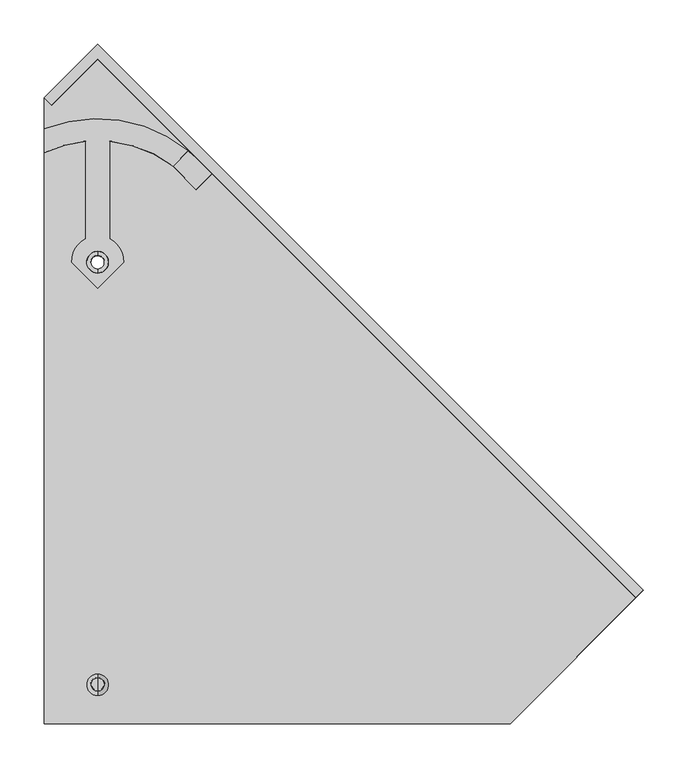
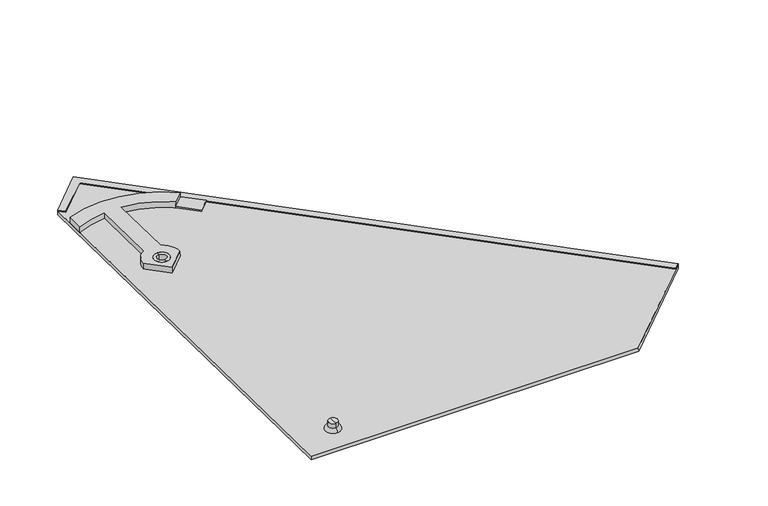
"""IFC4 building model written with IfcOpenShell, lengths in millimetres: proxy geometry, Roofing_Panels_SunStyle_Tuile_Coin-Bas-Grand-Gauche : Coin Bas Grand Gauche - Noir."""

from ifc_helpers import new_model, si_unit, point, frame, frame_2d, origin, place, context, project, spatial, polyline, circle_curve, ellipse_curve, trimmed, segment, composite_curve, outline, extrude, source, transform, mapped, element, save
from ifc_brep_helpers import plane_surface, cylinder_surface, revolved_surface, advanced_brep


def generic_models_bb089a68(model_context):
    return source(origin(), model_context, "Body", "SolidModel", [
        advanced_brep(
        [(0.0, -113.1716253, 18.1989674), (0.0, -99.8385448, 17.9756715), (0.0, -100.2068538, -4.0161979), (0.0, -113.5399344, -3.792902), (0.0, -118.6708541, 18.2910658), (0.0, -94.3393159, 17.8835731), (0.0, -113.7218578, 23.2048726), (0.0, -99.1209949, 22.9603445), (0.0, -106.2873979, 31.0854967), (0.0, -98.9869664, 30.9632326), (0.0, -113.5878294, 31.2077608), (0.0, -106.8733941, -3.9045499)],
        [
            (0, 1, circle_curve(frame((0.0, -106.505085, 18.0873194), z_axis=(0.0, -0.016745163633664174, -0.9998597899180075), x_axis=(0.0, 0.9998597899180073, -0.01674516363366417)), 6.6674751)),
            (1, 2),
            (2, 3, circle_curve(frame((0.0, -106.8733941, -3.9045499), z_axis=(0.0, 0.016745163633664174, 0.9998597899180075), x_axis=(0.0, 0.9998597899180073, -0.01674516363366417)), 6.6674751)),
            (3, 0),
            (1, 0, circle_curve(frame((0.0, -106.505085, 18.0873194), z_axis=(0.0, -0.016745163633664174, -0.9998597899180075), x_axis=(0.0, 0.9998597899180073, -0.01674516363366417)), 6.6674751)),
            (3, 2, circle_curve(frame((0.0, -106.8733941, -3.9045499), z_axis=(0.0, 0.016745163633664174, 0.9998597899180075), x_axis=(0.0, 0.9998597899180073, -0.01674516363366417)), 6.6674751)),
            (4, 5, circle_curve(frame((0.0, -106.505085, 18.0873194), z_axis=(0.0, -0.016745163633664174, -0.9998597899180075), x_axis=(0.0, 0.9998597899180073, -0.01674516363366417)), 12.1674751)),
            (5, 1),
            (0, 4),
            (5, 4, circle_curve(frame((0.0, -106.505085, 18.0873194), z_axis=(0.0, -0.016745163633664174, -0.9998597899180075), x_axis=(0.0, 0.9998597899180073, -0.01674516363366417)), 12.1674751)),
            (6, 7, circle_curve(frame((0.0, -106.4214264, 23.0826085), z_axis=(0.0, -0.016745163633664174, -0.9998597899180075), x_axis=(0.0, 0.9998597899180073, -0.01674516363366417)), 7.3014552)),
            (7, 5, circle_curve(frame((0.0, -99.4251928, 17.8835731), z_axis=(-1.0, 0.0, 0.0), x_axis=(0.0, 1.0, 0.0)), 5.0858769)),
            (4, 6, circle_curve(frame((0.0, -113.5878294, 18.120762), z_axis=(-1.0, 0.0, 0.0), x_axis=(0.0, -0.9994391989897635, 0.03348563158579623)), 5.0858769)),
            (7, 6, circle_curve(frame((0.0, -106.4214264, 23.0826085), z_axis=(0.0, -0.016745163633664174, -0.9998597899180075), x_axis=(0.0, 0.9998597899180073, -0.01674516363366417)), 7.3014552)),
            (8, 9),
            (9, 10, circle_curve(frame((0.0, -106.2873979, 31.0854967), z_axis=(0.0, 0.016745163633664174, 0.9998597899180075), x_axis=(0.0, 0.9998597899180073, -0.01674516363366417)), 7.3014552)),
            (10, 8),
            (10, 9, circle_curve(frame((0.0, -106.2873979, 31.0854967), z_axis=(0.0, 0.016745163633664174, 0.9998597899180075), x_axis=(0.0, 0.9998597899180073, -0.01674516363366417)), 7.3014552)),
            (2, 11),
            (11, 3),
            (9, 7),
            (6, 10),
        ],
        [
            cylinder_surface(frame((0.0, -106.1530399, 39.1080636), z_axis=(0.0, 0.01674516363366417, 0.9998597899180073), x_axis=(0.0, 0.9998597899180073, -0.01674516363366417)), 6.6674751),
            plane_surface(frame((0.0, -106.505085, 18.0873194), z_axis=(0.0, -0.016745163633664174, -0.9998597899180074), x_axis=(0.0, 0.9998597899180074, -0.016745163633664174))),
            revolved_surface(trimmed(ellipse_curve(frame((0.0, -99.4251928, 17.8835731), z_axis=(1.0, 0.0, 0.0), x_axis=(0.0, 1.0, 0.0)), 5.0858769, 5.0858769), [point((0.0, -94.3393159, 17.8835731))], [point((0.0, -99.1209949, 22.9603445))], True, "CARTESIAN"), (0.0, -106.1530399, 39.1080636), (0.0, 0.01674516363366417, 0.9998597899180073)),
            plane_surface(frame((0.0, -106.2873979, 31.0854967), z_axis=(0.0, 0.016745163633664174, 0.9998597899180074), x_axis=(0.0, 0.9998597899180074, -0.016745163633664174))),
            plane_surface(frame((0.0, -106.8733941, -3.9045499), z_axis=(0.0, -0.016745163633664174, -0.9998597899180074), x_axis=(0.0, 0.9998597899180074, -0.016745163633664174))),
            cylinder_surface(frame((0.0, -106.1530399, 39.1080636), z_axis=(0.0, 0.01674516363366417, 0.9998597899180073), x_axis=(0.0, 0.9998597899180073, -0.01674516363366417)), 7.3014552),
        ],
        [
            (0, [[1, 2, 3, 4]]),
            (0, [[5, -4, 6, -2]]),
            (1, [[7, 8, -1, 9]]),
            (1, [[10, -9, -5, -8]]),
            (2, [[11, 12, -7, 13]]),
            (2, [[14, -13, -10, -12]]),
            (3, [[15, 16, 17]]),
            (3, [[-17, 18, -15]]),
            (4, [[-3, 19, 20]]),
            (4, [[-6, -20, -19]]),
            (5, [[-16, 21, -11, 22]]),
            (5, [[-18, -22, -14, -21]]),
        ],
    ),
        advanced_brep(
        [(0.0, 361.8961325, 20.2441668), (0.0, 377.2289335, 19.9873805), (0.0, 381.7283021, 19.9120273), (0.0, 357.3967639, 20.31952), (0.0, 361.6282103, 4.2464102), (0.0, 376.9610105, 3.9896239), (0.0, 357.1288413, 4.3217634), (0.0, 381.4603795, 3.9142707)],
        [
            (0, 1, circle_curve(frame((0.0, 369.562533, 20.1157737), z_axis=(0.0, -0.016745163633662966, -0.9998597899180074), x_axis=(0.0, 0.9998597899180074, -0.016745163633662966)), 7.6674755)),
            (1, 2),
            (2, 3, circle_curve(frame((0.0, 369.562533, 20.1157737), z_axis=(0.0, 0.016745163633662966, 0.9998597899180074), x_axis=(0.0, 0.9998597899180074, -0.016745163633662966)), 12.1674751)),
            (3, 0),
            (1, 0, circle_curve(frame((0.0, 369.562533, 20.1157737), z_axis=(0.0, -0.016745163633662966, -0.9998597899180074), x_axis=(0.0, 0.9998597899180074, -0.016745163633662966)), 7.6674755)),
            (3, 2, circle_curve(frame((0.0, 369.562533, 20.1157737), z_axis=(0.0, 0.016745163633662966, 0.9998597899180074), x_axis=(0.0, 0.9998597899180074, -0.016745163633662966)), 12.1674751)),
            (4, 5, circle_curve(frame((0.0, 369.2946104, 4.118017), z_axis=(0.0, -0.016745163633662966, -0.9998597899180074), x_axis=(0.0, 0.9998597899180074, -0.016745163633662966)), 7.6674751)),
            (5, 1),
            (0, 4),
            (5, 4, circle_curve(frame((0.0, 369.2946104, 4.118017), z_axis=(0.0, -0.016745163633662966, -0.9998597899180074), x_axis=(0.0, 0.9998597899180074, -0.016745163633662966)), 7.6674751)),
            (6, 7, circle_curve(frame((0.0, 369.2946104, 4.118017), z_axis=(0.0, -0.016745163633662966, -0.9998597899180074), x_axis=(0.0, 0.9998597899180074, -0.016745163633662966)), 12.1674751)),
            (7, 5),
            (4, 6),
            (7, 6, circle_curve(frame((0.0, 369.2946104, 4.118017), z_axis=(0.0, -0.016745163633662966, -0.9998597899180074), x_axis=(0.0, 0.9998597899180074, -0.016745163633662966)), 12.1674751)),
            (2, 7),
            (6, 3),
        ],
        [
            plane_surface(frame((0.0, 369.562533, 20.1157737), z_axis=(0.0, 0.016745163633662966, 0.9998597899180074), x_axis=(0.0, 0.9998597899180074, -0.016745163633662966))),
            revolved_surface(polyline([(0.0, 377.2289330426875, 19.987380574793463), (0.0, 376.96101042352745, 3.989623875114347)]), (0.0, 369.562533, 20.1157737), (0.0, 0.016745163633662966, 0.9998597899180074)),
            plane_surface(frame((0.0, 369.2946104, 4.118017), z_axis=(0.0, -0.016745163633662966, -0.9998597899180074), x_axis=(0.0, 0.9998597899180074, -0.016745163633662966))),
            cylinder_surface(frame((0.0, 369.562533, 20.1157737), z_axis=(0.0, 0.016745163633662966, 0.9998597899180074), x_axis=(0.0, 0.9998597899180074, -0.016745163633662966)), 12.1674751),
        ],
        [
            (0, [[1, 2, 3, 4]]),
            (0, [[5, -4, 6, -2]]),
            (1, [[7, 8, -1, 9]]),
            (1, [[10, -9, -5, -8]]),
            (2, [[11, 12, -7, 13]]),
            (2, [[14, -13, -10, -12]]),
            (3, [[-3, 15, -11, 16]]),
            (3, [[-6, -16, -14, -15]]),
        ],
    ),
        extrude(outline(polyline([(0.0, -11.9999999), (0.0, 0.0), (858.0626589, 0.0), (858.0728943, 72.9957231), (870.0728943, 72.9940405), (870.0609764, -12.0), (0.0, -11.9999999)])), frame((606.7847845, -8.5982257, 16.4476231), z_axis=(0.0, 0.016745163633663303, 0.9998597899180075), x_axis=(-0.7071563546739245, 0.7069580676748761, -0.011839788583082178)), (0.0, 0.0, 1.0), 1.5),
        extrude(outline(polyline([(995.0941908, 0.0), (995.2161906, -870.0609679), (783.0180502, -870.0609679), (411.5375299, -498.6325329), (910.1001495, 0.0), (995.0941908, 0.0)]), holes=[composite_curve([segment(trimmed(circle_curve(frame_2d((821.5432581, -173.5748135)), 12.0), [point((813.0573819, -165.0901271))], [point((830.0291344, -182.0595))], True, "CARTESIAN"), True, "CONTINUOUS"), segment(trimmed(circle_curve(frame_2d((821.5432581, -173.5748135)), 12.0), [point((830.0291344, -182.0595))], [point((813.0573819, -165.0901271))], True, "CARTESIAN"), True, "CONTINUOUS")], self_intersect=False), composite_curve([segment(trimmed(circle_curve(frame_2d((484.9840289, -510.1812384)), 8.0), [point((479.3267781, -504.5247807))], [point((490.6412798, -515.837696))], True, "CARTESIAN"), True, "CONTINUOUS"), segment(trimmed(circle_curve(frame_2d((484.9840289, -510.1812384)), 8.0), [point((490.6412798, -515.837696))], [point((479.3267781, -504.5247807))], True, "CARTESIAN"), True, "CONTINUOUS")], self_intersect=False)]), frame((-703.686858, -88.6072499, 11.7867338), z_axis=(0.0, 0.01674516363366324, 0.9998597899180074), x_axis=(0.7071563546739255, 0.7069580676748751, -0.011839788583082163)), (0.0, 0.0, 1.0), 6.0),
        advanced_brep(
        [(-60.1037539, 519.6893101, 17.6015237), (-60.1037539, 492.9630774, 18.0491216), (-13.3, 505.8109871, 17.8339511), (-13.3, 395.9341043, 19.6741155), (-29.3894281, 369.7299846, 20.1129693), (0.0, 340.3446773, 20.6051), (29.3894281, 369.7299846, 20.1129693), (13.3, 395.9341043, 19.6741155), (13.3, 505.8109871, 17.8339511), (84.944396, 477.9190769, 18.3010712), (102.0275718, 494.9998575, 18.0150106), (-12.0, 369.7299846, 20.1129693), (12.0, 369.7299846, 20.1129693), (-60.1037539, 519.5218584, 7.6029258), (102.0275718, 494.8324058, 8.0164127), (114.2509691, 483.797483, 8.2012202), (128.9467134, 469.1058594, 8.4472683), (111.2690438, 451.4306685, 8.7432838), (84.9431983, 477.7528228, 8.3024532), (13.3, 505.6435355, 7.8353532), (13.3, 395.7666527, 9.6755176), (29.3894281, 369.562533, 10.1143714), (0.0, 340.1772257, 10.6065021), (-29.3894281, 369.562533, 10.1143714), (-13.3, 395.7666527, 9.6755176), (-13.3, 505.6435355, 7.8353532), (-60.1037539, 492.7956258, 8.0505237), (-12.0, 369.562533, 10.1143714), (12.0, 369.562533, 10.1143714), (102.0275718, 494.8742688, 10.5160622), (128.9467134, 469.1477223, 10.9469178), (114.2509691, 483.8393459, 10.7008697), (84.944396, 477.7934882, 10.8021227), (111.2690438, 451.4725314, 11.2429333)],
        [
            (0, 1),
            (1, 2, circle_curve(frame((0.0, 365.7229584, 20.180077), z_axis=(0.0, -0.01674516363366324, -0.9998597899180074), x_axis=(1.0, 0.0, 0.0)), 140.737522)),
            (2, 3),
            (3, 4, circle_curve(frame((0.0, 369.7299846, 20.1129693), z_axis=(0.0, 0.01674516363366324, 0.9998597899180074), x_axis=(1.0, 0.0, 0.0)), 29.3894281)),
            (4, 5),
            (5, 6),
            (6, 7, circle_curve(frame((0.0, 369.7299846, 20.1129693), z_axis=(0.0, 0.01674516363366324, 0.9998597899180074), x_axis=(1.0, 0.0, 0.0)), 29.3894281)),
            (7, 8),
            (8, 9, circle_curve(frame((0.0, 365.7229584, 20.180077), z_axis=(0.0, -0.01674516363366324, -0.9998597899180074), x_axis=(1.0, 0.0, 0.0)), 140.737522)),
            (9, 10),
            (10, 0, circle_curve(frame((0.0, 369.7299846, 20.1129693), z_axis=(0.0, 0.01674516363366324, 0.9998597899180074), x_axis=(1.0, 0.0, 0.0)), 161.57527)),
            (11, 12, circle_curve(frame((0.0, 369.7299846, 20.1129693), z_axis=(0.0, -0.01674516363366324, -0.9998597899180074), x_axis=(1.0, 0.0, 0.0)), 12.0)),
            (12, 11, circle_curve(frame((0.0, 369.7299846, 20.1129693), z_axis=(0.0, -0.01674516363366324, -0.9998597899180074), x_axis=(1.0, 0.0, 0.0)), 12.0)),
            (13, 14, circle_curve(frame((0.0, 369.562533, 10.1143714), z_axis=(0.0, -0.01674516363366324, -0.9998597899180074), x_axis=(1.0, 0.0, 0.0)), 161.57527)),
            (14, 15, circle_curve(frame((0.0, 369.562533, 10.1143714), z_axis=(0.0, -0.01674516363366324, -0.9998597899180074), x_axis=(1.0, 0.0, 0.0)), 161.57527)),
            (15, 16),
            (16, 17),
            (17, 18),
            (18, 19, circle_curve(frame((0.0, 365.5555068, 10.1814791), z_axis=(0.0, 0.01674516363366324, 0.9998597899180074), x_axis=(1.0, 0.0, 0.0)), 140.737522)),
            (19, 20),
            (20, 21, circle_curve(frame((0.0, 369.562533, 10.1143714), z_axis=(0.0, -0.01674516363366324, -0.9998597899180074), x_axis=(1.0, 0.0, 0.0)), 29.3894281)),
            (21, 22),
            (22, 23),
            (23, 24, circle_curve(frame((0.0, 369.562533, 10.1143714), z_axis=(0.0, -0.01674516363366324, -0.9998597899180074), x_axis=(1.0, 0.0, 0.0)), 29.3894281)),
            (24, 25),
            (25, 26, circle_curve(frame((0.0, 365.5555068, 10.1814791), z_axis=(0.0, 0.01674516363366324, 0.9998597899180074), x_axis=(1.0, 0.0, 0.0)), 140.737522)),
            (26, 13),
            (27, 28, circle_curve(frame((0.0, 369.562533, 10.1143714), z_axis=(0.0, 0.01674516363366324, 0.9998597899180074), x_axis=(1.0, 0.0, 0.0)), 12.0)),
            (28, 27, circle_curve(frame((0.0, 369.562533, 10.1143714), z_axis=(0.0, 0.01674516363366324, 0.9998597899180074), x_axis=(1.0, 0.0, 0.0)), 12.0)),
            (2, 25),
            (24, 3),
            (23, 4),
            (22, 5),
            (21, 6),
            (20, 7),
            (19, 8),
            (10, 29),
            (29, 14),
            (13, 0),
            (11, 27),
            (28, 12),
            (30, 31),
            (31, 29, circle_curve(frame((0.0, 369.6043959, 12.6140208), z_axis=(0.0, 0.01674516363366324, 0.9998597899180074), x_axis=(1.0, 0.0, 0.0)), 161.57527)),
            (29, 32),
            (32, 33),
            (33, 30),
            (30, 16),
            (15, 31),
            (33, 17),
            (32, 18),
            (9, 32),
            (1, 26),
        ],
        [
            plane_surface(frame((-60.1037539, 555.0633158, 17.0090971), z_axis=(0.0, 0.01674516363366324, 0.9998597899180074), x_axis=(0.0, -0.9998597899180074, 0.01674516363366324))),
            plane_surface(frame((-60.1037539, 554.8958642, 7.0104992), z_axis=(0.0, -0.01674516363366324, -0.9998597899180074), x_axis=(0.0, 0.9998597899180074, -0.01674516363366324))),
            plane_surface(frame((-13.3, 505.8109871, 17.8339511), z_axis=(-1.0000000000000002, 0.0, 0.0), x_axis=(0.0, -0.01674516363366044, -0.9998597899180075))),
            cylinder_surface(frame((0.0, 369.562533, 10.1143714), z_axis=(0.0, 0.01674516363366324, 0.9998597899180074), x_axis=(1.0, 0.0, 0.0)), 29.3894281),
            plane_surface(frame((-29.3894281, 369.7299846, 20.1129693), z_axis=(-0.7071067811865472, -0.7070076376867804, 0.011840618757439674), x_axis=(0.0, -0.01674516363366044, -0.9998597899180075))),
            plane_surface(frame((0.0, 340.3446773, 20.6051), z_axis=(0.7071067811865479, -0.7070076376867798, 0.01184061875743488), x_axis=(0.0, -0.016745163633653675, -0.9998597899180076))),
            plane_surface(frame((13.3, 395.9341043, 19.6741155), z_axis=(1.0000000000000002, 0.0, 0.0), x_axis=(0.0, -0.016745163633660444, -0.9998597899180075))),
            cylinder_surface(frame((0.0, 369.562533, 10.1143714), z_axis=(0.0, 0.01674516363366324, 0.9998597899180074), x_axis=(1.0, 0.0, 0.0)), 161.57527),
            revolved_surface(polyline([(12.0, 369.562533, 10.1143714), (12.0, 369.72998463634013, 20.112969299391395)]), (0.0, 369.562533, 10.1143714), (0.0, -0.01674516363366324, -0.9998597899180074)),
            plane_surface(frame((128.9467134, 469.1477223, 10.9469178), z_axis=(0.0, 0.01674516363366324, 0.9998597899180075), x_axis=(-0.7071563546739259, 0.7069580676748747, -0.011839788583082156))),
            plane_surface(frame((128.9467134, 469.1477223, 10.9469178), z_axis=(0.7070572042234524, 0.7070572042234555, -0.011841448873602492), x_axis=(0.0, -0.016745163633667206, -0.9998597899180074))),
            plane_surface(frame((111.2690438, 451.4725314, 11.2429333), z_axis=(0.7071067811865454, -0.7070076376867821, 0.011840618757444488), x_axis=(0.0, -0.016745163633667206, -0.9998597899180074))),
            plane_surface(frame((84.9431983, 477.7946858, 10.8021027), z_axis=(-0.7071067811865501, -0.7070076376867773, 0.011840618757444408), x_axis=(0.0, -0.016745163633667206, -0.9998597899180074))),
            plane_surface(frame((84.944396, 477.9190769, 18.3010712), z_axis=(0.7071067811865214, -0.7070076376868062, 0.011840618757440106), x_axis=(0.0, -0.01674516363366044, -0.9998597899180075))),
            revolved_surface(polyline([(140.737522, 365.5555067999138, 10.18147909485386), (140.737522, 365.722958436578, 20.18007701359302)]), (0.0, 365.5555068, 10.1814791), (0.0, -0.01674516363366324, -0.9998597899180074)),
            revolved_surface(polyline([(140.737522, 365.55550679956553, 10.181479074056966), (140.737522, 365.72295843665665, 20.180077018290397)]), (0.0, 365.5555068, 10.1814791), (0.0, -0.01674516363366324, -0.9998597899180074)),
            plane_surface(frame((-60.1037539, 519.6893101, 17.6015237), z_axis=(-1.0000000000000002, 0.0, 0.0), x_axis=(0.0, -0.01674516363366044, -0.9998597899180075))),
        ],
        [
            (0, [[1, 2, 3, 4, 5, 6, 7, 8, 9, 10, 11], [12, 13]]),
            (1, [[14, 15, 16, 17, 18, 19, 20, 21, 22, 23, 24, 25, 26, 27], [28, 29]]),
            (2, [[-3, 30, -25, 31]]),
            (3, [[-4, -31, -24, 32]]),
            (4, [[-5, -32, -23, 33]]),
            (5, [[-6, -33, -22, 34]]),
            (3, [[-7, -34, -21, 35]]),
            (6, [[-8, -35, -20, 36]]),
            (7, [[-11, 37, 38, -14, 39]]),
            (8, [[-12, 40, -29, 41]]),
            (8, [[-13, -41, -28, -40]]),
            (9, [[42, 43, 44, 45, 46]]),
            (10, [[-42, 47, -16, 48]]),
            (11, [[-46, 49, -17, -47]]),
            (7, [[-43, -48, -15, -38]]),
            (12, [[-45, 50, -18, -49]]),
            (13, [[-10, 51, -44, -37]]),
            (14, [[-2, 52, -26, -30]]),
            (15, [[-9, -36, -19, -50, -51]]),
            (16, [[-1, -39, -27, -52]]),
        ],
    ),
    ])


if __name__ == "__main__":
    model = new_model("IFC4")
    model_context = context("Model", 3, world=origin())
    ifc_project = project(units=[si_unit("LENGTHUNIT", "METRE", prefix="MILLI")], contexts=[model_context])
    site = spatial("IfcSite", under=ifc_project)
    building = spatial("IfcBuilding", under=site)
    placement = place(None, origin())
    generic_models_shape = generic_models_bb089a68(model_context)
    element("IfcBuildingElementProxy", 1, Name="Roofing_Panels_SunStyle_Tuile_Coin-Bas-Grand-Gauche : Coin Bas Grand Gauche - Noir", ObjectType="Roofing_Panels_SunStyle_Tuile_Coin-Bas-Grand-Gauche : Coin Bas Grand Gauche - Noir", at=placement, inside=building, context=model_context, shape_type="MappedRepresentation", body=[
        mapped(generic_models_shape, transform((0.0, 0.0, 0.0), x_axis=(1.0, 0.0, 0.0), y_axis=(0.0, 1.0, 0.0), z_axis=(0.0, 0.0, 1.0))),
    ])
    save(model, "model.ifc")
